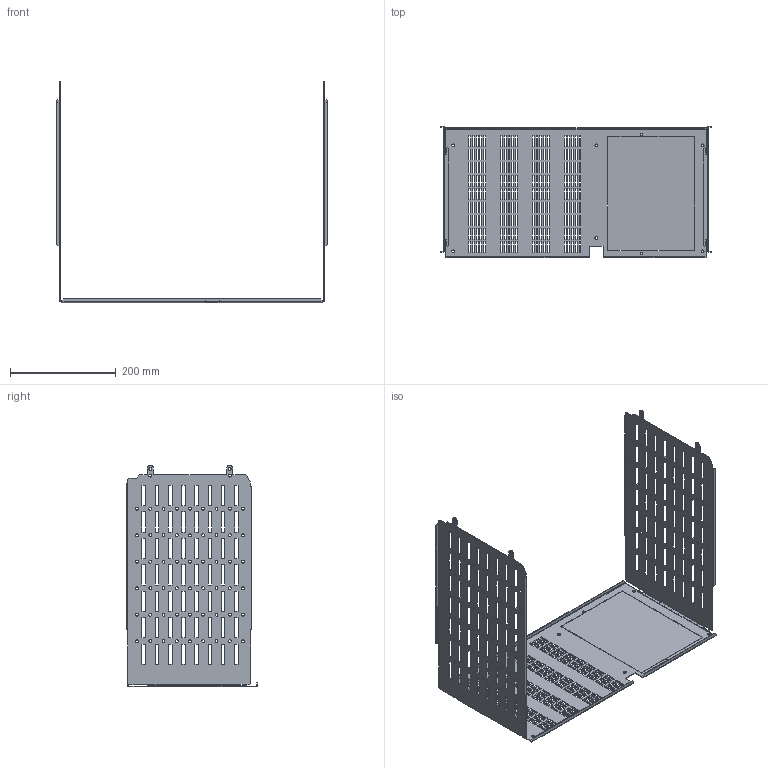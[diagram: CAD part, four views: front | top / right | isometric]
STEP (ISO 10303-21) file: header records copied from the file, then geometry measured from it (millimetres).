
FILE_DESCRIPTION(('CAx-IF Rec.Pracs.---Model Styling and Organization---1.2---2011-12-15','CAx-IF Rec.Pracs.---Geometric and Assembly Validation Properties---4.1---2014-06-16','CAx-IF Rec.Pracs.---PMI Polyline Presentation---2.0---2013-05-24'),'2;1');
FILE_NAME('R5M2WPV5M.stp','2021-05-05T13:02:11+03:00',(''),(''),'STEP Interface 4.4 by CT CoreTechnologie','3D_Evolution4.4 by CT CoreTechnologie','');
FILE_SCHEMA(('AUTOMOTIVE_DESIGN { 1 0 10303 214 1 1 1 1 }'));
Length unit declared in the file: millimetre
Products named in the file (4): R5M2WPV5M; RB.1600.00.00.0_-03; RB.1285.00.00.0_-10; RB.1285.00.00.0_-11
Assembly tree (3 placements, depth 2):
  R5M2WPV5M
    RB.1600.00.00.0_-03
    RB.1285.00.00.0_-10
    RB.1285.00.00.0_-11
Bounding box: 510 x 247.5 x 419 mm (x, y, z)
Surface area: 582083.5 mm2 (no closed solid volume)
Topology: 0 solids, 3 shells, 1668 faces, 5010 edges, 3340 vertices
Faces by surface type: plane 1378, cylinder 290
Entity records: 57589 total; most frequent: CARTESIAN_POINT 10022, ORIENTED_EDGE 10020, DIRECTION 8934, EDGE_CURVE 5010, VECTOR 4430, LINE 4430, VERTEX_POINT 3340, EDGE_LOOP 2536
